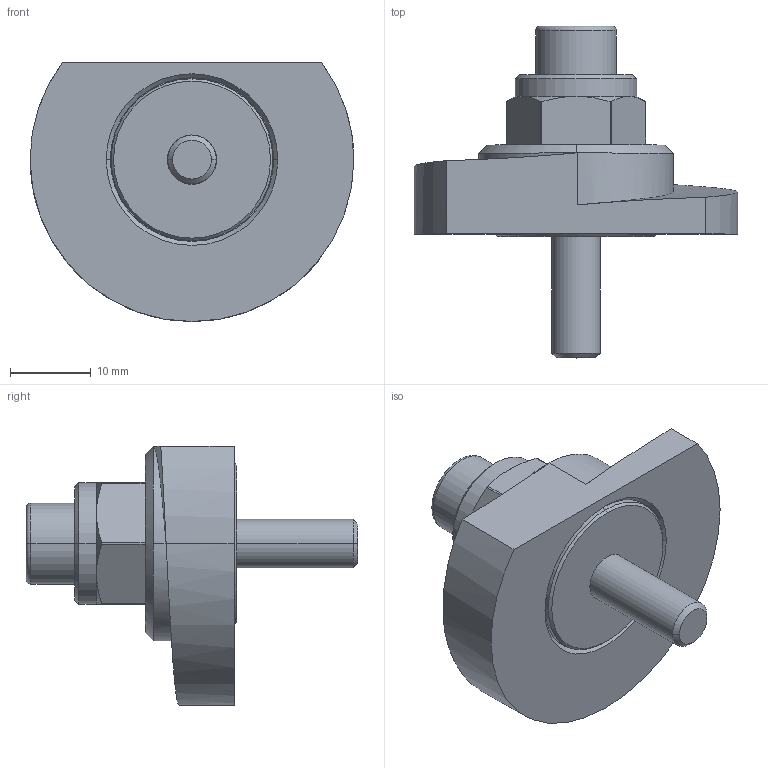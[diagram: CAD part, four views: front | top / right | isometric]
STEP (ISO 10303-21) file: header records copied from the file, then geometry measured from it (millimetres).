
FILE_DESCRIPTION (( 'STEP AP214' ), '1' );
FILE_NAME ('918.1-40-SKS-R-15.step', '2024-05-15T13:01:06', ( '' ), ( '' ), 'SwSTEP 2.0', 'SolidWorks 2022', '' );
FILE_SCHEMA (( 'AUTOMOTIVE_DESIGN' ));
Length unit declared in the file: millimetre
Products named in the file (1): 918.1-40-SKS-R-15
Bounding box: 40 x 41 x 32 mm (x, y, z)
Volume: 11374.1 mm3; surface area: 6491.2 mm2
Topology: 1 solids, 2 shells, 82 faces, 185 edges, 116 vertices
Faces by surface type: cylinder 30, plane 26, cone 22, torus 2, bspline 2
Entity records: 2641 total; most frequent: CARTESIAN_POINT 753, DIRECTION 407, ORIENTED_EDGE 370, EDGE_CURVE 185, AXIS2_PLACEMENT_3D 163, VERTEX_POINT 116, EDGE_LOOP 93, CIRCLE 82
